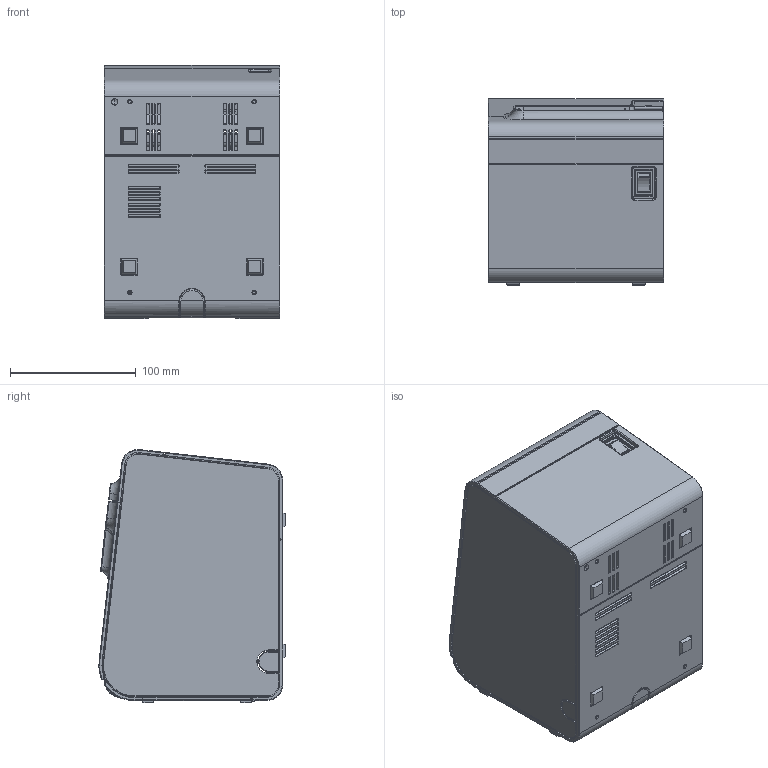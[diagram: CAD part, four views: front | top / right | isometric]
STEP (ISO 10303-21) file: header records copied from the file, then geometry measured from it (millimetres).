
FILE_DESCRIPTION((''),'2;1');
FILE_NAME('TM-L90_CLOSE_SW','2025-01-23T10:51:56',('0092109'),(''),'CREO PARAMETRIC BY PTC INC, 2022281','CREO PARAMETRIC BY PTC INC, 2022281','');
FILE_SCHEMA(('AUTOMOTIVE_DESIGN { 1 0 10303 214 1 1 1 1 }'));
Products named in the file (1): TM-L90_CLOSE_SW
Bounding box: 140.23 x 148.33 x 201.68 mm (x, y, z)
Surface area: 430790.9 mm2 (no closed solid volume)
Topology: 0 solids, 18 shells, 4195 faces, 11627 edges, 7367 vertices
Faces by surface type: plane 2289, cylinder 1330, bspline 300, torus 155, cone 75, sphere 46
Entity records: 150331 total; most frequent: CARTESIAN_POINT 45893, ORIENTED_EDGE 22480, DIRECTION 20233, EDGE_CURVE 11614, VECTOR 7855, LINE 7855, VERTEX_POINT 7367, AXIS2_PLACEMENT_3D 6189
